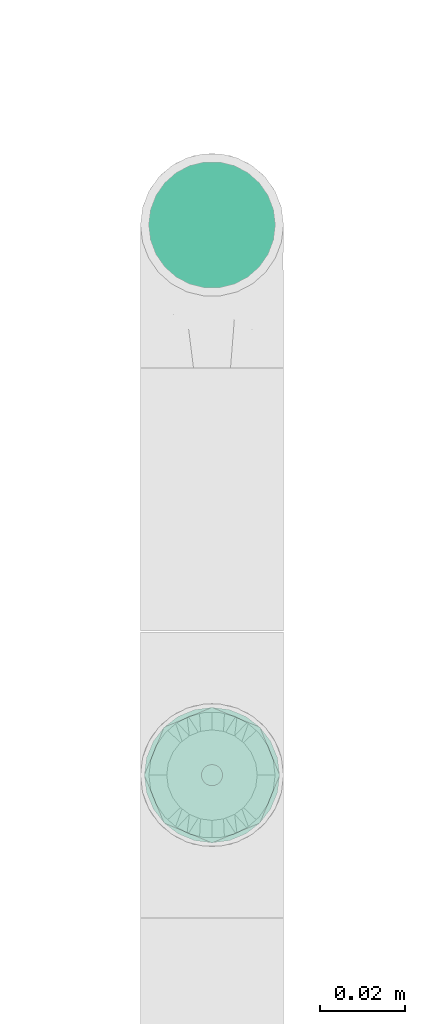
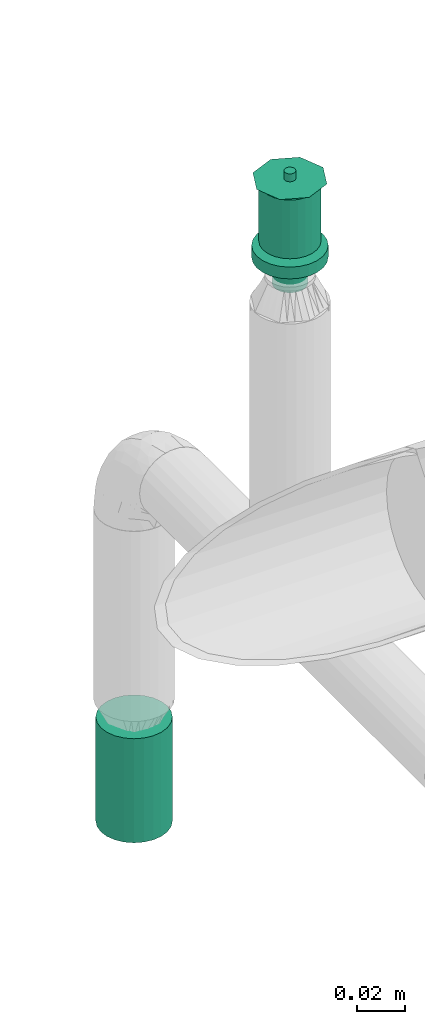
# One storey, part 87 of 157: 2 flow terminals.
"""IFC2X3 building model written with IfcOpenShell, lengths in millimetres."""

import ifcopenshell
import ifcopenshell.guid

model = None  # the IFC model being written
_history = None  # IfcOwnerHistory: only IFC2X3 demands one
_inside = {}  # id of a spatial element -> (the spatial element, [elements in it])
_under = {}  # id of a project, library or spatial element -> (it, [spatial elements below it])
_declared = {}  # id of a project -> (the project, [libraries it declares])
_typed = {}  # id of a type object -> (the type object, [elements of that type])
_made_of = {}  # id of a material, layer set ... -> (it, [elements and type objects made of it])


def new_model(schema):
    """Start an empty IFC model of exactly this schema.

    Asked for "IFC4X3", IfcOpenShell would pick the latest addendum, in which some entities
    have other attributes; the version numbers below select the first issue.
    IFC2X3 requires an IfcOwnerHistory on every rooted entity: one is made here for all.
    """
    global model, _history
    if schema == "IFC4X3":
        model = ifcopenshell.file(schema_version=(4, 3, 0, 0))
    else:
        model = ifcopenshell.file(schema=schema)
    _inside.clear()
    _under.clear()
    _declared.clear()
    _typed.clear()
    _made_of.clear()
    _history = None
    if model.schema == "IFC2X3":
        org = make("IfcOrganization", Name="unknown")
        user = make(
            "IfcPersonAndOrganization",
            ThePerson=make("IfcPerson", FamilyName="unknown"),
            TheOrganization=org,
        )
        app = make(
            "IfcApplication",
            ApplicationDeveloper=org,
            Version="unknown",
            ApplicationFullName="unknown",
            ApplicationIdentifier="unknown",
        )
        _history = make(
            "IfcOwnerHistory",
            OwningUser=user,
            OwningApplication=app,
            ChangeAction="ADDED",
            CreationDate=0,
        )
    return model


def make(cls, **values):
    """One entity of the class cls with the attributes given. An attribute that is None is left unset."""
    return model.create_entity(
        cls, **{name: value for name, value in values.items() if value is not None}
    )


def entity(cls, *values):
    """Any entity or typed value of the class cls, its attributes in the order of the schema. None: left unset."""
    e = model.create_entity(cls)
    for i, value in enumerate(values):
        if value is not None:
            e[i] = value
    return e


def rooted(cls, **values):
    """An entity with a GlobalId (a new one), such as an element, a storey or a relation."""
    return make(cls, GlobalId=ifcopenshell.guid.new(), OwnerHistory=_history, **values)


def si_unit(unit_type, name, prefix=None):
    """IfcSIUnit, for example si_unit("LENGTHUNIT", "METRE", prefix="MILLI")."""
    return make("IfcSIUnit", UnitType=unit_type, Prefix=prefix, Name=name)


def converted_unit(unit_type, name, factor, base, dimensions=None, offset=None):
    """IfcConversionBasedUnit, such as the inch: factor (a typed value) times the base unit."""
    return make(
        "IfcConversionBasedUnit"
        if offset is None
        else "IfcConversionBasedUnitWithOffset",
        ConversionOffset=offset,
        Dimensions=None
        if dimensions is None
        else entity("IfcDimensionalExponents", *dimensions),
        UnitType=unit_type,
        Name=name,
        ConversionFactor=make(
            "IfcMeasureWithUnit", ValueComponent=factor, UnitComponent=base
        ),
    )


def derived_unit(unit_type, elements):
    """IfcDerivedUnit: a product of units, each with its exponent."""
    return make(
        "IfcDerivedUnit",
        Elements=[
            make("IfcDerivedUnitElement", Unit=unit, Exponent=power)
            for unit, power in elements
        ],
        UnitType=unit_type,
    )


def assignment(units):
    """IfcUnitAssignment: the units of a project."""
    return None if units is None else make("IfcUnitAssignment", Units=units)


def point(xyz):
    """IfcCartesianPoint."""
    return None if xyz is None else make("IfcCartesianPoint", Coordinates=xyz)


def direction(xyz):
    """IfcDirection."""
    return None if xyz is None else make("IfcDirection", DirectionRatios=xyz)


def frame(location, z_axis=None, x_axis=None):
    """IfcAxis2Placement3D, a coordinate frame: its origin and axes. An axis left out is left unset."""
    return make(
        "IfcAxis2Placement3D",
        Location=point(location),
        Axis=direction(z_axis),
        RefDirection=direction(x_axis),
    )


def origin_with_axes():
    """The frame at (0, 0, 0) with the z axis (0, 0, 1) and the x axis (1, 0, 0) written out."""
    return frame((0.0, 0.0, 0.0), z_axis=(0.0, 0.0, 1.0), x_axis=(1.0, 0.0, 0.0))


def place(relative_to, where):
    """IfcLocalPlacement: puts the frame where relative to a parent placement (None: the world)."""
    return make(
        "IfcLocalPlacement", PlacementRelTo=relative_to, RelativePlacement=where
    )


def context(
    kind, dimensions, precision=None, world=None, true_north=None, identifier=None
):
    """IfcGeometricRepresentationContext, for example the 3D "Model" context."""
    return make(
        "IfcGeometricRepresentationContext",
        ContextIdentifier=identifier,
        ContextType=kind,
        CoordinateSpaceDimension=dimensions,
        Precision=precision,
        WorldCoordinateSystem=world,
        TrueNorth=true_north,
    )


def subcontext(parent, identifier, kind, view, scale=None):
    """IfcGeometricRepresentationSubContext, for example "Body" below "Model"."""
    return make(
        "IfcGeometricRepresentationSubContext",
        ContextIdentifier=identifier,
        ContextType=kind,
        ParentContext=parent,
        TargetScale=scale,
        TargetView=view,
    )


def project(units=None, contexts=None):
    """IfcProject with its units and contexts."""
    return rooted(
        "IfcProject",
        Name="project",
        RepresentationContexts=contexts,
        UnitsInContext=assignment(units),
    )


def spatial(cls, under=None, at=None, **own):
    """A site, building, storey or space (cls), placed at a placement, below another one or the project."""
    s = rooted(cls, ObjectPlacement=at, **own)
    if under is not None:
        _under.setdefault(under.id(), (under, []))[1].append(s)
    return s


def faces_of(points, faces, orient=None, outer=None):
    """IfcFace entities. A face is a list of loops; a loop is a list of indices into points, from 0.

    orient and outer hold one flag for each loop. By default every Orientation is true, the
    first loop of a face is its IfcFaceOuterBound and the others are IfcFaceBound.
    """
    made = []
    for i, loops in enumerate(faces):
        bounds = []
        for j, loop in enumerate(loops):
            is_outer = j == 0 if outer is None else outer[i][j]
            bounds.append(
                make(
                    "IfcFaceOuterBound" if is_outer else "IfcFaceBound",
                    Bound=make("IfcPolyLoop", Polygon=[points[k] for k in loop]),
                    Orientation=True if orient is None else orient[i][j],
                )
            )
        made.append(make("IfcFace", Bounds=bounds))
    return made


def open_shell(faces, orient=None, outer=None):
    """The faces of one IfcOpenShell. surface_model builds it on its shared points."""
    return ("IfcOpenShell", faces, orient, outer)


def surface_model(cls, points, shells):
    """IfcFaceBasedSurfaceModel or IfcShellBasedSurfaceModel (cls): surfaces that need not close."""
    shared = [point(p) for p in points]
    made = [make(c, CfsFaces=faces_of(shared, fs, o, b)) for c, fs, o, b in shells]
    if cls == "IfcFaceBasedSurfaceModel":
        return make(cls, FbsmFaces=made)
    return make(cls, SbsmBoundary=made)


def shape(context_of_items, identifier, shape_type, items):
    """IfcShapeRepresentation: the items that make up one representation, for example the "Body"."""
    return make(
        "IfcShapeRepresentation",
        ContextOfItems=context_of_items,
        RepresentationIdentifier=identifier,
        RepresentationType=shape_type,
        Items=items,
    )


def source(mapping_origin, context_of_items, identifier, shape_type, items):
    """IfcRepresentationMap: a shape defined once, which mapped items show again and again."""
    return make(
        "IfcRepresentationMap",
        MappingOrigin=mapping_origin,
        MappedRepresentation=shape(context_of_items, identifier, shape_type, items),
    )


def transform(
    local_origin,
    x_axis=None,
    y_axis=None,
    z_axis=None,
    scale=None,
    scale2=None,
    scale3=None,
    uniform=True,
):
    """IfcCartesianTransformationOperator3D, or its non-uniform kind. x_axis, y_axis, z_axis: its Axis1, 2, 3."""
    if uniform:
        return make(
            "IfcCartesianTransformationOperator3D",
            Axis1=direction(x_axis),
            Axis2=direction(y_axis),
            LocalOrigin=point(local_origin),
            Scale=scale,
            Axis3=direction(z_axis),
        )
    return make(
        "IfcCartesianTransformationOperator3DnonUniform",
        Axis1=direction(x_axis),
        Axis2=direction(y_axis),
        LocalOrigin=point(local_origin),
        Scale=scale,
        Axis3=direction(z_axis),
        Scale2=scale2,
        Scale3=scale3,
    )


def mapped(mapping_source, mapping_target):
    """IfcMappedItem: shows the shape of a source again, moved by a transform."""
    return make(
        "IfcMappedItem", MappingSource=mapping_source, MappingTarget=mapping_target
    )


def made_of(thing, what):
    """Note that an element or type object is made of a material, layer set ...; save() writes the relation."""
    if what is not None:
        _made_of.setdefault(what.id(), (what, []))[1].append(thing)
    return thing


def type_object(cls, material=None, **own):
    """A type object (cls), such as IfcWallType, which elements share."""
    return made_of(rooted(cls, **own), material)


def element(
    cls,
    number,
    at=None,
    inside=None,
    cuts=None,
    type_object=None,
    material=None,
    context=None,
    identifier="Body",
    shape_type=None,
    held_by="IfcProductDefinitionShape",
    body=None,
    shapes=None,
    **own,
):
    """One element of the class cls, such as IfcWall. Its Tag is "e" and its number.

    at: its placement. inside: the storey or other place that contains it. cuts: it is an
    opening in that element (IfcRelVoidsElement). A single representation is given by context,
    identifier, shape_type and body (its items); several are given by shapes. held_by: the class
    of the entity that holds the representations. save() writes the other relations.
    """
    e = rooted(cls, Tag="e%d" % number, ObjectPlacement=at, **own)
    if body is not None:
        shapes = [shape(context, identifier, shape_type, body)]
    if shapes is not None:
        e.Representation = make(held_by, Representations=shapes)
    if inside is not None:
        _inside.setdefault(inside.id(), (inside, []))[1].append(e)
    if cuts is not None:
        rooted(
            "IfcRelVoidsElement", RelatingBuildingElement=cuts, RelatedOpeningElement=e
        )
    if type_object is not None:
        _typed.setdefault(type_object.id(), (type_object, []))[1].append(e)
    return made_of(e, material)


def aggregate(whole, parts):
    """IfcRelAggregates: a whole, such as a stair, and the parts it consists of."""
    return rooted("IfcRelAggregates", RelatingObject=whole, RelatedObjects=parts)


def save(model, path):
    """Write the relations noted so far, then the file.

    IfcRelAggregates (storeys below a building ...), IfcRelContainedInSpatialStructure (elements
    in a storey), IfcRelDefinesByType, IfcRelAssociatesMaterial and IfcRelDeclares: one each for
    every whole, place, type object, material and project.
    """
    for whole, parts in _under.values():
        aggregate(whole, parts)
    for where, things in _inside.values():
        rooted(
            "IfcRelContainedInSpatialStructure",
            RelatedElements=things,
            RelatingStructure=where,
        )
    for kind, things in _typed.values():
        rooted("IfcRelDefinesByType", RelatedObjects=things, RelatingType=kind)
    for what, things in _made_of.values():
        rooted("IfcRelAssociatesMaterial", RelatedObjects=things, RelatingMaterial=what)
    for by, libraries in _declared.values():
        rooted("IfcRelDeclares", RelatingContext=by, RelatedDefinitions=libraries)
    model.write(path)


model = new_model("IFC2X3")

# Units and contexts
model_context = context("Model", 3, precision=0.01, world=frame((0.0, 4.29681676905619e-09, 0.0)), true_north=direction((4.01073788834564e-13, 1.0)))
plan_context = context("Plan", 3, precision=0.01, world=frame((0.0, 4.29681676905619e-09, 0.0)), true_north=direction((4.01073788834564e-13, 1.0)))
body_context = subcontext(model_context, "Body", "Model", "MODEL_VIEW")
ifc_project = project(units=[converted_unit("PLANEANGLEUNIT", "DEGREE", entity("IfcPositiveLengthMeasure", 0.0174532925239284), si_unit("PLANEANGLEUNIT", "RADIAN"), dimensions=[0, 0, 0, 0, 0, 0, 0]), si_unit("AREAUNIT", "SQUARE_METRE"), si_unit("LENGTHUNIT", "METRE", prefix="MILLI"), si_unit("MASSUNIT", "GRAM", prefix="KILO"), si_unit("POWERUNIT", "WATT"), si_unit("PRESSUREUNIT", "PASCAL"), si_unit("FORCEUNIT", "NEWTON", prefix="KILO"), si_unit("ELECTRICCURRENTUNIT", "AMPERE"), si_unit("THERMODYNAMICTEMPERATUREUNIT", "DEGREE_CELSIUS"), si_unit("TIMEUNIT", "SECOND"), si_unit("VOLUMEUNIT", "CUBIC_METRE"), derived_unit("LINEARVELOCITYUNIT", [(si_unit("LENGTHUNIT", "METRE"), 1), (si_unit("TIMEUNIT", "SECOND"), -1)]), derived_unit("VOLUMETRICFLOWRATEUNIT", [(si_unit("VOLUMEUNIT", "CUBIC_METRE"), 1), (si_unit("TIMEUNIT", "SECOND"), -1)]), derived_unit("THERMALTRANSMITTANCEUNIT", [(si_unit("POWERUNIT", "WATT"), 1), (si_unit("THERMODYNAMICTEMPERATUREUNIT", "KELVIN"), -1), (si_unit("AREAUNIT", "SQUARE_METRE"), -1)])], contexts=[model_context, plan_context])

# Site, building, storey
site_placement = place(None, frame((0.0, -4.29681676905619e-09, 0.0), z_axis=(0.0, 0.0, 1.0), x_axis=(1.0, 0.0, 0.0)))
site = spatial("IfcSite", under=ifc_project, at=site_placement, CompositionType="ELEMENT")
building_placement = place(site_placement, frame((0.0, 4.29681676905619e-09, 0.0), z_axis=(0.0, 0.0, 1.0), x_axis=(1.0, 0.0, 0.0)))
building = spatial("IfcBuilding", under=site, at=building_placement, Name="mc-building", CompositionType="ELEMENT")
storey_placement = place(building_placement, frame((0.0, 0.0, 204000.0), z_axis=(0.0, 0.0, 1.0), x_axis=(1.0, 0.0, 0.0)))
storey = spatial("IfcBuildingStorey", under=building, at=storey_placement, Name="Nivå D", CompositionType="ELEMENT", Elevation=204000.0)

# Flow terminals
fire_suppression_terminal_type_1 = type_object("IfcFireSuppressionTerminalType", Name="SP-15-K80-68DGR-STD-HIMLING", PredefinedType="NOTDEFINED")
shared_shape_1 = source(origin_with_axes(), body_context, "Body", "SurfaceModel", [
    surface_model("IfcShellBasedSurfaceModel", [(4.1411, -15.45481, 53.0), (8.0, -13.85641, 53.0), (11.31371, -11.31371, 53.0), (-8.0, -13.85641, 53.0), (15.45481, -4.1411, 53.0), (16.0, 0.0, 53.0), (13.85641, -8.0, 53.0), (0.0, -16.0, 53.0), (-4.1411, -15.45481, 53.0), (-13.85641, -8.0, 53.0), (-11.31371, -11.31371, 53.0), (-15.45481, -4.1411, 53.0), (15.45481, 4.1411, 53.0), (13.85641, 8.0, 53.0), (11.31371, 11.31371, 53.0), (-4.1411, 15.45481, 53.0), (8.0, 13.85641, 53.0), (4.1411, 15.45481, 53.0), (0.0, 16.0, 53.0), (-13.85641, 8.0, 53.0), (-15.45481, 4.1411, 53.0), (-16.0, 0.0, 53.0), (-11.31371, 11.31371, 53.0), (-8.0, 13.85641, 53.0), (0.0, 16.0, 0.0), (4.1411, 15.45481, 0.0), (8.0, 13.85641, 0.0), (-4.1411, 15.45481, 0.0), (11.31371, 11.31371, 0.0), (13.85641, 8.0, 0.0), (15.45481, 4.1411, 0.0), (-15.45481, -4.1411, 0.0), (-11.31371, 11.31371, 0.0), (-8.0, 13.85641, 0.0), (-13.85641, 8.0, 0.0), (-15.45481, 4.1411, 0.0), (-16.0, 0.0, 0.0), (4.1411, -15.45481, 0.0), (16.0, 0.0, 0.0), (15.45481, -4.1411, 0.0), (13.85641, -8.0, 0.0), (11.31371, -11.31371, 0.0), (8.0, -13.85641, 0.0), (-8.0, -13.85641, 0.0), (-13.85641, -8.0, 0.0), (-11.31371, -11.31371, 0.0), (0.0, -16.0, 0.0), (-4.1411, -15.45481, 0.0)], [open_shell([[[0, 1, 2]], [[3, 0, 2]], [[4, 5, 2]], [[4, 2, 6]], [[3, 2, 5]], [[7, 3, 8]], [[7, 0, 3]], [[3, 9, 10]], [[9, 3, 11]], [[5, 11, 3]], [[5, 12, 11]], [[12, 13, 14]], [[15, 12, 14]], [[16, 17, 18]], [[14, 16, 15]], [[18, 15, 16]], [[11, 19, 20]], [[21, 11, 20]], [[22, 15, 23]], [[15, 22, 19]], [[19, 11, 15]], [[11, 12, 15]], [[24, 25, 26]], [[27, 24, 26]], [[28, 29, 30]], [[27, 26, 28]], [[27, 28, 31]], [[27, 32, 33]], [[32, 27, 34]], [[34, 31, 35]], [[31, 34, 27]], [[35, 31, 36]], [[28, 30, 31]], [[37, 38, 39]], [[37, 39, 40]], [[41, 42, 37]], [[41, 37, 40]], [[38, 37, 43]], [[44, 43, 45]], [[43, 44, 31]], [[43, 46, 47]], [[43, 31, 38]], [[37, 46, 43]], [[38, 31, 30]], [[11, 31, 44]], [[45, 9, 44]], [[3, 43, 47]], [[45, 43, 10]], [[8, 47, 46]], [[31, 21, 36]], [[31, 11, 21]], [[44, 9, 11]], [[45, 10, 9]], [[3, 10, 43]], [[47, 8, 3]], [[46, 7, 8]], [[0, 37, 42]], [[41, 1, 42]], [[6, 40, 39]], [[41, 40, 2]], [[4, 39, 38]], [[37, 0, 7]], [[42, 1, 0]], [[41, 2, 1]], [[40, 6, 2]], [[4, 6, 39]], [[38, 5, 4]], [[37, 7, 46]], [[12, 38, 30]], [[13, 30, 29]], [[16, 26, 25]], [[17, 25, 24]], [[30, 13, 12]], [[12, 5, 38]], [[28, 14, 13]], [[28, 26, 14]], [[14, 26, 16]], [[25, 17, 16]], [[28, 13, 29]], [[24, 18, 17]], [[15, 27, 33]], [[32, 23, 33]], [[19, 34, 35]], [[32, 34, 22]], [[20, 35, 36]], [[27, 15, 18]], [[33, 23, 15]], [[32, 22, 23]], [[34, 19, 22]], [[20, 19, 35]], [[36, 21, 20]], [[27, 18, 24]]])]),
])
flow_terminal_1_placement = place(storey_placement, frame((521500.0, 416600.0, 2400.0), z_axis=(0.0, 0.0, -1.0), x_axis=(1.0, 0.0, 0.0)))
element("IfcFlowTerminal", 1, at=flow_terminal_1_placement, inside=storey, type_object=fire_suppression_terminal_type_1, Name="SP-15-K80-68DGR-STD-HIMLING", context=body_context, shape_type="MappedRepresentation", body=[
    mapped(shared_shape_1, transform((0.0, 0.0, 0.0), scale=1.0)),
])
fire_suppression_terminal_type_2 = type_object("IfcFireSuppressionTerminalType", Name="68DGR-STD-STÅENDE", PredefinedType="NOTDEFINED")
shared_shape_2 = source(origin_with_axes(), body_context, "Body", "SurfaceModel", [
    surface_model("IfcShellBasedSurfaceModel", [(3.36465, -12.55704, 51.0), (6.5, -11.25833, 51.0), (9.19239, -9.19239, 51.0), (12.55704, -3.36465, 51.0), (-11.25833, -6.5, 51.0), (11.25833, -6.5, 51.0), (-13.0, 0.0, 51.0), (0.0, -13.0, 51.0), (-6.5, -11.25833, 51.0), (-3.36465, -12.55704, 51.0), (-9.19239, -9.19239, 51.0), (-12.55704, -3.36465, 51.0), (13.0, 0.0, 51.0), (12.55704, 3.36465, 51.0), (11.25833, 6.5, 51.0), (9.19239, 9.19239, 51.0), (6.5, 11.25833, 51.0), (3.36465, 12.55704, 51.0), (0.0, 13.0, 51.0), (-3.36465, 12.55704, 51.0), (-12.55704, 3.36465, 51.0), (-9.19239, 9.19239, 51.0), (-11.25833, 6.5, 51.0), (-6.5, 11.25833, 51.0), (0.0, 13.0, 21.14766), (3.36465, 12.55704, 21.14766), (6.5, 11.25833, 21.14766), (-3.36465, 12.55704, 21.14766), (9.19239, 9.19239, 21.14766), (11.25833, 6.5, 21.14766), (12.55704, 3.36465, 21.14766), (-12.55704, 3.36465, 21.14766), (-11.25833, -6.5, 21.14766), (-9.19239, 9.19239, 21.14766), (-6.5, 11.25833, 21.14766), (-11.25833, 6.5, 21.14766), (-13.0, 0.0, 21.14766), (12.55704, -3.36465, 21.14766), (9.19239, -9.19239, 21.14766), (11.25833, -6.5, 21.14766), (6.5, -11.25833, 21.14766), (3.36465, -12.55704, 21.14766), (-6.5, -11.25833, 21.14766), (-9.19239, -9.19239, 21.14766), (-12.55704, -3.36465, 21.14766), (0.0, -13.0, 21.14766), (-3.36465, -12.55704, 21.14766), (13.0, 0.0, 21.14766), (7.24444, -1.94114, 0.1), (1.94114, -7.24444, 0.1), (3.75, -6.49519, 0.1), (5.3033, -5.3033, 0.1), (-5.3033, -5.3033, 0.1), (6.49519, -3.75, 0.1), (5.3033, 5.3033, 0.1), (0.0, -7.5, 0.1), (-3.75, -6.49519, 0.1), (-1.94114, -7.24444, 0.1), (-7.24444, -1.94114, 0.1), (-6.49519, -3.75, 0.1), (-7.24444, 1.94114, 0.1), (7.5, 0.0, 0.1), (6.49519, 3.75, 0.1), (-6.49519, 3.75, 0.1), (1.94114, 7.24444, 0.1), (0.0, 7.5, 0.1), (3.75, 6.49519, 0.1), (-7.5, 0.0, 0.1), (-5.3033, 5.3033, 0.1), (-1.94114, 7.24444, 0.1), (-3.75, 6.49519, 0.1), (7.24444, 1.94114, 0.1), (1.94114, 7.24444, -0.1), (-6.49519, 3.75, -0.1), (0.0, 7.5, -0.1), (5.3033, 5.3033, -0.1), (3.75, 6.49519, -0.1), (6.49519, 3.75, -0.1), (7.24444, 1.94114, -0.1), (-1.94114, 7.24444, -0.1), (-5.3033, 5.3033, -0.1), (-3.75, 6.49519, -0.1), (-7.24444, 1.94114, -0.1), (-7.24444, -1.94114, -0.1), (-7.5, 0.0, -0.1), (7.5, 0.0, -0.1), (7.24444, -1.94114, -0.1), (-5.3033, -5.3033, -0.1), (1.94114, -7.24444, -0.1), (6.49519, -3.75, -0.1), (5.3033, -5.3033, -0.1), (3.75, -6.49519, -0.1), (-6.49519, -3.75, -0.1), (-3.75, -6.49519, -0.1), (0.0, -7.5, -0.1), (-1.94114, -7.24444, -0.1), (0.0, -2.5, 51.0), (-2.5, 0.0, 51.0), (0.0, 2.5, 51.0), (2.5, 0.0, 51.0), (0.0, -16.0, 53.0), (11.31371, -11.31371, 53.0), (-11.31371, -11.31371, 53.0), (-16.0, 0.0, 53.0), (16.0, 0.0, 53.0), (11.31371, 11.31371, 53.0), (0.0, 16.0, 53.0), (-11.31371, 11.31371, 53.0), (1.25, -2.16506, 57.0), (0.0, -2.5, 57.0), (0.64705, -2.41481, 57.0), (2.41481, -0.64705, 57.0), (1.76777, -1.76777, 57.0), (-2.41481, -0.64705, 57.0), (-2.5, 0.0, 57.0), (2.16506, -1.25, 57.0), (-1.25, -2.16506, 57.0), (-0.64705, -2.41481, 57.0), (-1.76777, -1.76777, 57.0), (-2.16506, -1.25, 57.0), (2.5, 0.0, 57.0), (2.41481, 0.64705, 57.0), (2.16506, 1.25, 57.0), (1.76777, 1.76777, 57.0), (0.64705, 2.41481, 57.0), (1.25, 2.16506, 57.0), (-1.76777, 1.76777, 57.0), (0.0, 2.5, 57.0), (-2.16506, 1.25, 57.0), (-2.41481, 0.64705, 57.0), (-0.64705, 2.41481, 57.0), (-1.25, 2.16506, 57.0), (1.25, 2.16506, 51.0), (1.76777, 1.76777, 51.0), (1.15, 1.99186, 51.0), (0.59528, 2.22163, 51.0), (0.64705, 2.41481, 51.0), (0.0, 2.3, 51.0), (1.62635, 1.62635, 51.0), (2.41481, 0.64705, 51.0), (2.3, 0.0, 51.0), (2.22163, 0.59528, 51.0), (2.16506, 1.25, 51.0), (1.99186, 1.15, 51.0), (-0.59528, 2.22163, 51.0), (-0.64705, 2.41481, 51.0), (-1.15, 1.99186, 51.0), (-1.76777, 1.76777, 51.0), (-1.25, 2.16506, 51.0), (-1.62635, 1.62635, 51.0), (-1.99186, 1.15, 51.0), (-2.16506, 1.25, 51.0), (-2.22163, 0.59528, 51.0), (-2.41481, 0.64705, 51.0), (-2.3, 0.0, 51.0), (2.41481, -0.64705, 51.0), (2.22163, -0.59528, 51.0), (1.99186, -1.15, 51.0), (2.16506, -1.25, 51.0), (1.62635, -1.62635, 51.0), (1.76777, -1.76777, 51.0), (1.25, -2.16506, 51.0), (1.15, -1.99186, 51.0), (0.59528, -2.22163, 51.0), (0.64705, -2.41481, 51.0), (0.0, -2.3, 51.0), (-2.16506, -1.25, 51.0), (-1.99186, -1.15, 51.0), (-1.76777, -1.76777, 51.0), (-1.62635, -1.62635, 51.0), (-2.41481, -0.64705, 51.0), (-2.22163, -0.59528, 51.0), (-0.59528, -2.22163, 51.0), (-0.64705, -2.41481, 51.0), (-1.15, -1.99186, 51.0), (-1.25, -2.16506, 51.0), (1.62635, -1.62635, 56.8), (1.15, -1.99186, 56.8), (0.59528, -2.22163, 56.8), (0.0, -2.3, 56.8), (2.22163, 0.59528, 56.8), (1.99186, -1.15, 56.8), (2.22163, -0.59528, 56.8), (-0.59528, -2.22163, 56.8), (-1.15, -1.99186, 56.8), (-1.62635, -1.62635, 56.8), (-1.99186, -1.15, 56.8), (-2.22163, -0.59528, 56.8), (-1.99186, 1.15, 56.8), (2.3, 0.0, 56.8), (1.62635, 1.62635, 56.8), (1.99186, 1.15, 56.8), (1.15, 1.99186, 56.8), (0.0, 2.3, 56.8), (0.59528, 2.22163, 56.8), (-2.22163, 0.59528, 56.8), (-2.3, 0.0, 56.8), (-1.15, 1.99186, 56.8), (-0.59528, 2.22163, 56.8), (-1.62635, 1.62635, 56.8), (4.1411, -15.45481, 19.0), (8.0, -13.85641, 19.0), (11.31371, -11.31371, 19.0), (-8.0, -13.85641, 19.0), (15.45481, -4.1411, 19.0), (16.0, 0.0, 19.0), (13.85641, -8.0, 19.0), (0.0, -16.0, 19.0), (-4.1411, -15.45481, 19.0), (-13.85641, -8.0, 19.0), (-11.31371, -11.31371, 19.0), (-15.45481, -4.1411, 19.0), (15.45481, 4.1411, 19.0), (13.85641, 8.0, 19.0), (11.31371, 11.31371, 19.0), (-4.1411, 15.45481, 19.0), (8.0, 13.85641, 19.0), (4.1411, 15.45481, 19.0), (0.0, 16.0, 19.0), (-13.85641, 8.0, 19.0), (-15.45481, 4.1411, 19.0), (-16.0, 0.0, 19.0), (-11.31371, 11.31371, 19.0), (-8.0, 13.85641, 19.0), (0.0, 16.0, 13.0), (4.1411, 15.45481, 13.0), (8.0, 13.85641, 13.0), (-4.1411, 15.45481, 13.0), (11.31371, 11.31371, 13.0), (13.85641, 8.0, 13.0), (15.45481, 4.1411, 13.0), (-15.45481, -4.1411, 13.0), (-11.31371, 11.31371, 13.0), (-8.0, 13.85641, 13.0), (-13.85641, 8.0, 13.0), (-15.45481, 4.1411, 13.0), (-16.0, 0.0, 13.0), (4.1411, -15.45481, 13.0), (16.0, 0.0, 13.0), (15.45481, -4.1411, 13.0), (13.85641, -8.0, 13.0), (11.31371, -11.31371, 13.0), (8.0, -13.85641, 13.0), (-8.0, -13.85641, 13.0), (-13.85641, -8.0, 13.0), (-11.31371, -11.31371, 13.0), (0.0, -16.0, 13.0), (-4.1411, -15.45481, 13.0), (7.24444, -1.94114, 13.0), (1.94114, -7.24444, 13.0), (3.75, -6.49519, 13.0), (5.3033, -5.3033, 13.0), (-5.3033, -5.3033, 13.0), (6.49519, -3.75, 13.0), (5.3033, 5.3033, 13.0), (0.0, -7.5, 13.0), (-3.75, -6.49519, 13.0), (-1.94114, -7.24444, 13.0), (-7.24444, -1.94114, 13.0), (-6.49519, -3.75, 13.0), (-7.24444, 1.94114, 13.0), (7.5, 0.0, 13.0), (6.49519, 3.75, 13.0), (-6.49519, 3.75, 13.0), (1.94114, 7.24444, 13.0), (0.0, 7.5, 13.0), (3.75, 6.49519, 13.0), (-7.5, 0.0, 13.0), (-5.3033, 5.3033, 13.0), (-1.94114, 7.24444, 13.0), (-3.75, 6.49519, 13.0), (7.24444, 1.94114, 13.0), (3.75, 6.49519, 0.0), (5.3033, 5.3033, 0.0), (3.65, 6.32199, 0.0), (1.88938, 7.05126, 0.0), (0.0, 7.3, 0.0), (1.94114, 7.24444, 0.0), (0.0, 7.5, 0.0), (5.16188, 5.16188, 0.0), (7.24444, 1.94114, 0.0), (7.3, 0.0, 0.0), (7.05126, 1.88938, 0.0), (7.5, 0.0, 0.0), (6.49519, 3.75, 0.0), (6.32199, 3.65, 0.0), (-1.88938, 7.05126, 0.0), (-1.94114, 7.24444, 0.0), (-3.65, 6.32199, 0.0), (-5.3033, 5.3033, 0.0), (-3.75, 6.49519, 0.0), (-5.16188, 5.16188, 0.0), (-6.32199, 3.65, 0.0), (-6.49519, 3.75, 0.0), (-7.05126, 1.88938, 0.0), (-7.24444, 1.94114, 0.0), (-7.3, 0.0, 0.0), (-7.5, 0.0, 0.0), (7.24444, -1.94114, 0.0), (7.05126, -1.88938, 0.0), (6.32199, -3.65, 0.0), (6.49519, -3.75, 0.0), (5.16188, -5.16188, 0.0), (5.3033, -5.3033, 0.0), (3.75, -6.49519, 0.0), (3.65, -6.32199, 0.0), (1.88938, -7.05126, 0.0), (1.94114, -7.24444, 0.0), (0.0, -7.3, 0.0), (0.0, -7.5, 0.0), (-6.49519, -3.75, 0.0), (-6.32199, -3.65, 0.0), (-5.3033, -5.3033, 0.0), (-5.16188, -5.16188, 0.0), (-7.24444, -1.94114, 0.0), (-7.05126, -1.88938, 0.0), (-1.88938, -7.05126, 0.0), (-1.94114, -7.24444, 0.0), (-3.65, -6.32199, 0.0), (-3.75, -6.49519, 0.0), (1.88938, -7.05126, 12.8), (0.0, -7.3, 12.8), (3.65, -6.32199, 12.8), (5.16188, -5.16188, 12.8), (6.32199, -3.65, 12.8), (7.05126, 1.88938, 12.8), (7.05126, -1.88938, 12.8), (-5.16188, -5.16188, 12.8), (-1.88938, -7.05126, 12.8), (-3.65, -6.32199, 12.8), (-6.32199, -3.65, 12.8), (-7.05126, -1.88938, 12.8), (0.0, 7.3, 12.8), (7.3, 0.0, 12.8), (6.32199, 3.65, 12.8), (5.16188, 5.16188, 12.8), (3.65, 6.32199, 12.8), (1.88938, 7.05126, 12.8), (-6.32199, 3.65, 12.8), (-7.05126, 1.88938, 12.8), (-7.3, 0.0, 12.8), (-3.65, 6.32199, 12.8), (-1.88938, 7.05126, 12.8), (-5.16188, 5.16188, 12.8)], [open_shell([[[0, 1, 2]], [[0, 2, 3]], [[0, 3, 4]], [[3, 2, 5]], [[6, 4, 3]], [[7, 8, 9]], [[7, 0, 8]], [[8, 4, 10]], [[0, 4, 8]], [[4, 6, 11]], [[6, 3, 12]], [[13, 14, 15]], [[6, 13, 15]], [[16, 17, 18]], [[15, 16, 19]], [[18, 19, 16]], [[20, 21, 22]], [[20, 6, 15]], [[21, 19, 23]], [[19, 21, 20]], [[15, 19, 20]], [[13, 6, 12]], [[24, 25, 26]], [[27, 24, 26]], [[28, 29, 30]], [[26, 28, 31]], [[28, 32, 31]], [[27, 33, 34]], [[33, 27, 31]], [[33, 31, 35]], [[27, 26, 31]], [[31, 32, 36]], [[32, 28, 30]], [[32, 30, 37]], [[38, 37, 39]], [[38, 40, 41]], [[38, 41, 37]], [[32, 37, 41]], [[32, 42, 43]], [[44, 36, 32]], [[42, 45, 46]], [[42, 32, 41]], [[45, 42, 41]], [[30, 47, 37]], [[4, 32, 43]], [[8, 42, 46]], [[43, 42, 10]], [[9, 46, 45]], [[36, 11, 6]], [[11, 36, 44]], [[11, 44, 4]], [[44, 32, 4]], [[43, 10, 4]], [[8, 10, 42]], [[46, 9, 8]], [[45, 7, 9]], [[0, 41, 40]], [[38, 1, 40]], [[5, 39, 37]], [[38, 39, 2]], [[3, 37, 47]], [[41, 0, 7]], [[40, 1, 0]], [[38, 2, 1]], [[39, 5, 2]], [[3, 5, 37]], [[47, 12, 3]], [[41, 7, 45]], [[30, 13, 47]], [[29, 14, 30]], [[25, 24, 17]], [[15, 29, 28]], [[30, 14, 13]], [[13, 12, 47]], [[16, 26, 17]], [[16, 15, 28]], [[26, 25, 17]], [[15, 14, 29]], [[28, 26, 16]], [[24, 18, 17]], [[19, 27, 34]], [[33, 23, 34]], [[22, 35, 31]], [[33, 35, 21]], [[20, 31, 36]], [[27, 19, 18]], [[34, 23, 19]], [[33, 21, 23]], [[35, 22, 21]], [[20, 22, 31]], [[36, 6, 20]], [[27, 18, 24]], [[48, 49, 50]], [[48, 50, 51]], [[49, 48, 52]], [[48, 51, 53]], [[54, 52, 48]], [[55, 56, 57]], [[56, 55, 52]], [[52, 58, 59]], [[52, 55, 49]], [[52, 60, 58]], [[54, 48, 61]], [[62, 54, 61]], [[54, 63, 52]], [[64, 65, 54]], [[64, 54, 66]], [[63, 54, 65]], [[63, 60, 52]], [[67, 58, 60]], [[68, 69, 70]], [[69, 68, 63]], [[69, 63, 65]], [[71, 62, 61]], [[72, 73, 74]], [[75, 72, 76]], [[75, 77, 78]], [[72, 75, 73]], [[78, 73, 75]], [[79, 80, 81]], [[80, 79, 73]], [[74, 73, 79]], [[78, 82, 73]], [[82, 83, 84]], [[82, 78, 85]], [[86, 87, 85]], [[88, 86, 89]], [[90, 91, 88]], [[90, 88, 89]], [[87, 86, 88]], [[83, 87, 92]], [[83, 85, 87]], [[93, 94, 95]], [[94, 93, 87]], [[88, 94, 87]], [[85, 83, 82]], [[83, 58, 84]], [[92, 59, 83]], [[56, 87, 93]], [[92, 87, 52]], [[57, 93, 95]], [[83, 59, 58]], [[58, 67, 84]], [[57, 56, 93]], [[52, 87, 56]], [[52, 59, 92]], [[55, 57, 95]], [[95, 94, 55]], [[88, 49, 94]], [[91, 50, 88]], [[53, 90, 89]], [[91, 90, 51]], [[48, 89, 86]], [[91, 51, 50]], [[50, 49, 88]], [[61, 48, 86]], [[53, 89, 48]], [[53, 51, 90]], [[85, 61, 86]], [[94, 49, 55]], [[78, 71, 85]], [[77, 62, 78]], [[66, 75, 76]], [[77, 75, 54]], [[64, 76, 72]], [[78, 62, 71]], [[71, 61, 85]], [[64, 66, 76]], [[54, 75, 66]], [[54, 62, 77]], [[65, 64, 72]], [[72, 74, 65]], [[79, 69, 74]], [[81, 70, 79]], [[63, 80, 73]], [[81, 80, 68]], [[60, 73, 82]], [[81, 68, 70]], [[70, 69, 79]], [[67, 60, 82]], [[63, 73, 60]], [[63, 68, 80]], [[84, 67, 82]], [[74, 69, 65]], [[96, 97, 98]], [[98, 99, 96]], [[100, 101, 102]], [[103, 102, 101]], [[101, 104, 103]], [[104, 105, 106]], [[107, 103, 106]], [[106, 103, 104]], [[99, 98, 105]], [[105, 104, 99]], [[98, 106, 105]], [[98, 107, 106]], [[107, 98, 97]], [[103, 107, 97]], [[97, 96, 102]], [[102, 103, 97]], [[96, 100, 102]], [[96, 101, 100]], [[101, 96, 99]], [[104, 101, 99]], [[108, 109, 110]], [[111, 108, 112]], [[113, 108, 114]], [[111, 112, 115]], [[108, 111, 114]], [[109, 116, 117]], [[116, 109, 118]], [[118, 113, 119]], [[118, 109, 108]], [[108, 113, 118]], [[111, 120, 114]], [[121, 122, 123]], [[114, 121, 123]], [[114, 123, 124]], [[124, 123, 125]], [[126, 124, 127]], [[124, 128, 129]], [[129, 114, 124]], [[126, 130, 131]], [[128, 124, 126]], [[130, 126, 127]], [[121, 114, 120]], [[132, 133, 134]], [[132, 134, 135]], [[136, 135, 137]], [[135, 136, 132]], [[136, 137, 98]], [[134, 133, 138]], [[139, 140, 141]], [[140, 139, 99]], [[139, 141, 142]], [[138, 142, 143]], [[142, 138, 133]], [[143, 142, 141]], [[98, 144, 145]], [[98, 137, 144]], [[145, 144, 146]], [[147, 148, 149]], [[146, 148, 145]], [[149, 148, 146]], [[150, 151, 147]], [[151, 150, 152]], [[150, 147, 149]], [[153, 152, 154]], [[152, 153, 151]], [[153, 154, 97]], [[99, 155, 156]], [[156, 155, 157]], [[157, 158, 159]], [[158, 157, 155]], [[159, 158, 160]], [[160, 161, 162]], [[162, 161, 163]], [[163, 164, 165]], [[164, 163, 161]], [[165, 164, 96]], [[162, 159, 160]], [[166, 167, 168]], [[168, 167, 169]], [[167, 166, 170]], [[97, 171, 170]], [[170, 171, 167]], [[97, 154, 171]], [[172, 96, 173]], [[172, 173, 174]], [[169, 175, 168]], [[175, 169, 174]], [[175, 174, 173]], [[165, 96, 172]], [[156, 140, 99]], [[170, 113, 97]], [[166, 119, 170]], [[116, 168, 175]], [[166, 168, 118]], [[117, 175, 173]], [[170, 119, 113]], [[113, 114, 97]], [[117, 116, 175]], [[118, 168, 116]], [[118, 119, 166]], [[109, 117, 173]], [[173, 96, 109]], [[164, 110, 96]], [[161, 108, 164]], [[115, 160, 158]], [[161, 160, 112]], [[111, 158, 155]], [[161, 112, 108]], [[108, 110, 164]], [[120, 111, 155]], [[115, 158, 111]], [[115, 112, 160]], [[99, 120, 155]], [[96, 110, 109]], [[139, 121, 99]], [[142, 122, 139]], [[125, 133, 132]], [[142, 133, 123]], [[124, 132, 136]], [[139, 122, 121]], [[121, 120, 99]], [[124, 125, 132]], [[123, 133, 125]], [[123, 122, 142]], [[127, 124, 136]], [[136, 98, 127]], [[145, 130, 98]], [[148, 131, 145]], [[128, 147, 151]], [[148, 147, 126]], [[129, 151, 153]], [[148, 126, 131]], [[131, 130, 145]], [[114, 129, 153]], [[128, 151, 129]], [[128, 126, 147]], [[97, 114, 153]], [[98, 130, 127]], [[176, 177, 178]], [[176, 178, 179]], [[180, 176, 179]], [[181, 176, 182]], [[180, 182, 176]], [[183, 184, 179]], [[185, 179, 184]], [[186, 187, 185]], [[185, 187, 188]], [[179, 185, 188]], [[189, 182, 180]], [[190, 191, 180]], [[192, 190, 180]], [[193, 194, 192]], [[180, 193, 192]], [[188, 193, 180]], [[195, 188, 196]], [[196, 188, 187]], [[197, 198, 199]], [[188, 199, 198]], [[188, 198, 193]], [[180, 179, 188]], [[154, 187, 171]], [[171, 186, 167]], [[174, 169, 184]], [[185, 169, 167]], [[172, 174, 183]], [[187, 186, 171]], [[154, 196, 187]], [[174, 184, 183]], [[184, 169, 185]], [[167, 186, 185]], [[172, 183, 179]], [[179, 165, 172]], [[165, 178, 163]], [[163, 177, 162]], [[157, 159, 181]], [[176, 159, 162]], [[156, 157, 182]], [[177, 176, 162]], [[163, 178, 177]], [[156, 182, 189]], [[182, 157, 181]], [[159, 176, 181]], [[156, 189, 140]], [[179, 178, 165]], [[140, 180, 141]], [[141, 191, 143]], [[134, 138, 192]], [[190, 138, 143]], [[135, 134, 194]], [[180, 191, 141]], [[140, 189, 180]], [[134, 192, 194]], [[192, 138, 190]], [[143, 191, 190]], [[135, 194, 193]], [[193, 137, 135]], [[137, 198, 144]], [[144, 197, 146]], [[150, 149, 188]], [[199, 149, 146]], [[152, 150, 195]], [[197, 199, 146]], [[144, 198, 197]], [[152, 195, 196]], [[195, 150, 188]], [[149, 199, 188]], [[152, 196, 154]], [[193, 198, 137]], [[200, 201, 202]], [[203, 200, 202]], [[204, 205, 202]], [[204, 202, 206]], [[203, 202, 205]], [[207, 203, 208]], [[207, 200, 203]], [[203, 209, 210]], [[209, 203, 211]], [[205, 211, 203]], [[205, 212, 211]], [[212, 213, 214]], [[215, 212, 214]], [[216, 217, 218]], [[214, 216, 215]], [[218, 215, 216]], [[211, 219, 220]], [[221, 211, 220]], [[222, 215, 223]], [[215, 222, 219]], [[219, 211, 215]], [[211, 212, 215]], [[224, 225, 226]], [[227, 224, 226]], [[228, 229, 230]], [[227, 226, 228]], [[227, 228, 231]], [[227, 232, 233]], [[232, 227, 234]], [[234, 231, 235]], [[231, 234, 227]], [[235, 231, 236]], [[228, 230, 231]], [[237, 238, 239]], [[237, 239, 240]], [[241, 242, 237]], [[241, 237, 240]], [[238, 237, 243]], [[244, 243, 245]], [[243, 244, 231]], [[243, 246, 247]], [[243, 231, 238]], [[237, 246, 243]], [[238, 231, 230]], [[231, 211, 236]], [[244, 209, 231]], [[203, 245, 243]], [[244, 245, 210]], [[208, 243, 247]], [[231, 209, 211]], [[211, 221, 236]], [[208, 203, 243]], [[210, 245, 203]], [[210, 209, 244]], [[207, 208, 247]], [[247, 246, 207]], [[237, 200, 246]], [[242, 201, 237]], [[206, 241, 240]], [[242, 241, 202]], [[204, 240, 239]], [[242, 202, 201]], [[201, 200, 237]], [[205, 204, 239]], [[206, 240, 204]], [[206, 202, 241]], [[238, 205, 239]], [[246, 200, 207]], [[230, 212, 238]], [[229, 213, 230]], [[216, 228, 226]], [[229, 228, 214]], [[217, 226, 225]], [[230, 213, 212]], [[212, 205, 238]], [[217, 216, 226]], [[214, 228, 216]], [[214, 213, 229]], [[218, 217, 225]], [[225, 224, 218]], [[227, 215, 224]], [[233, 223, 227]], [[219, 232, 234]], [[233, 232, 222]], [[220, 234, 235]], [[233, 222, 223]], [[223, 215, 227]], [[221, 220, 235]], [[219, 234, 220]], [[219, 222, 232]], [[236, 221, 235]], [[224, 215, 218]], [[248, 249, 250]], [[248, 250, 251]], [[249, 248, 252]], [[248, 251, 253]], [[254, 252, 248]], [[255, 256, 257]], [[256, 255, 252]], [[252, 258, 259]], [[252, 255, 249]], [[252, 260, 258]], [[254, 248, 261]], [[262, 254, 261]], [[254, 263, 252]], [[264, 265, 254]], [[264, 254, 266]], [[263, 254, 265]], [[263, 260, 252]], [[267, 258, 260]], [[268, 269, 270]], [[269, 268, 263]], [[269, 263, 265]], [[271, 262, 261]], [[272, 273, 274]], [[272, 274, 275]], [[276, 277, 275]], [[277, 276, 278]], [[275, 277, 272]], [[274, 273, 279]], [[280, 281, 282]], [[281, 280, 283]], [[280, 282, 284]], [[279, 284, 285]], [[284, 279, 273]], [[285, 284, 282]], [[278, 286, 287]], [[287, 286, 288]], [[289, 290, 291]], [[288, 290, 287]], [[288, 291, 290]], [[278, 276, 286]], [[292, 293, 289]], [[293, 292, 294]], [[292, 289, 291]], [[295, 294, 296]], [[294, 295, 293]], [[295, 296, 297]], [[283, 298, 299]], [[299, 298, 300]], [[300, 301, 302]], [[301, 300, 298]], [[302, 301, 303]], [[303, 304, 305]], [[305, 304, 306]], [[306, 307, 308]], [[307, 306, 304]], [[308, 307, 309]], [[305, 302, 303]], [[310, 311, 312]], [[312, 311, 313]], [[311, 310, 314]], [[297, 315, 314]], [[314, 315, 311]], [[297, 296, 315]], [[316, 309, 317]], [[316, 317, 318]], [[313, 319, 312]], [[313, 318, 319]], [[319, 318, 317]], [[308, 309, 316]], [[299, 281, 283]], [[314, 258, 297]], [[310, 259, 314]], [[256, 312, 319]], [[310, 312, 252]], [[257, 319, 317]], [[314, 259, 258]], [[258, 267, 297]], [[257, 256, 319]], [[252, 312, 256]], [[252, 259, 310]], [[255, 257, 317]], [[317, 309, 255]], [[307, 249, 309]], [[304, 250, 307]], [[253, 303, 301]], [[304, 303, 251]], [[248, 301, 298]], [[304, 251, 250]], [[250, 249, 307]], [[261, 248, 298]], [[253, 301, 248]], [[253, 251, 303]], [[283, 261, 298]], [[309, 249, 255]], [[280, 271, 283]], [[284, 262, 280]], [[266, 273, 272]], [[284, 273, 254]], [[264, 272, 277]], [[280, 262, 271]], [[271, 261, 283]], [[264, 266, 272]], [[254, 273, 266]], [[254, 262, 284]], [[265, 264, 277]], [[277, 278, 265]], [[287, 269, 278]], [[290, 270, 287]], [[263, 289, 293]], [[290, 289, 268]], [[260, 293, 295]], [[290, 268, 270]], [[270, 269, 287]], [[267, 260, 295]], [[263, 293, 260]], [[263, 268, 289]], [[297, 267, 295]], [[278, 269, 265]], [[320, 321, 322]], [[323, 322, 324]], [[325, 326, 322]], [[324, 322, 326]], [[322, 327, 325]], [[328, 329, 321]], [[327, 321, 329]], [[330, 331, 327]], [[322, 321, 327]], [[331, 332, 327]], [[326, 325, 333]], [[334, 325, 332]], [[335, 334, 336]], [[332, 337, 336]], [[334, 332, 336]], [[331, 338, 332]], [[339, 338, 340]], [[340, 338, 331]], [[341, 342, 343]], [[332, 338, 343]], [[332, 343, 342]], [[332, 325, 327]], [[296, 331, 315]], [[315, 330, 311]], [[318, 313, 329]], [[327, 313, 311]], [[316, 318, 328]], [[331, 330, 315]], [[296, 340, 331]], [[318, 329, 328]], [[329, 313, 327]], [[311, 330, 327]], [[316, 328, 321]], [[321, 308, 316]], [[308, 320, 306]], [[306, 322, 305]], [[300, 302, 324]], [[323, 302, 305]], [[299, 300, 326]], [[322, 323, 305]], [[306, 320, 322]], [[299, 326, 333]], [[326, 300, 324]], [[302, 323, 324]], [[299, 333, 281]], [[321, 320, 308]], [[281, 325, 282]], [[282, 334, 285]], [[274, 279, 336]], [[335, 279, 285]], [[275, 274, 337]], [[325, 334, 282]], [[281, 333, 325]], [[274, 336, 337]], [[336, 279, 335]], [[285, 334, 335]], [[275, 337, 332]], [[332, 276, 275]], [[276, 342, 286]], [[286, 341, 288]], [[292, 291, 338]], [[343, 291, 288]], [[294, 292, 339]], [[341, 343, 288]], [[286, 342, 341]], [[294, 339, 340]], [[339, 292, 338]], [[291, 343, 338]], [[294, 340, 296]], [[332, 342, 276]]])]),
])
flow_terminal_2_placement = place(storey_placement, frame((521500.0, 416470.0, 2700.0), z_axis=(0.0, 0.0, 1.0), x_axis=(1.0, 0.0, 0.0)))
element("IfcFlowTerminal", 2, at=flow_terminal_2_placement, inside=storey, type_object=fire_suppression_terminal_type_2, Name="68DGR-STD-STÅENDE", context=body_context, shape_type="MappedRepresentation", body=[
    mapped(shared_shape_2, transform((0.0, 0.0, 0.0), scale=1.0)),
])

save(model, "model.ifc")
